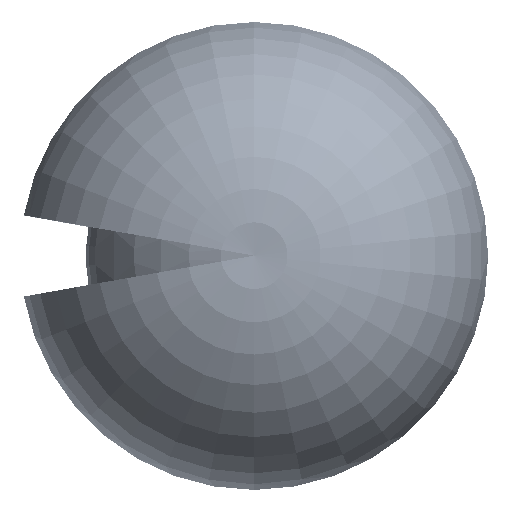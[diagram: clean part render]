
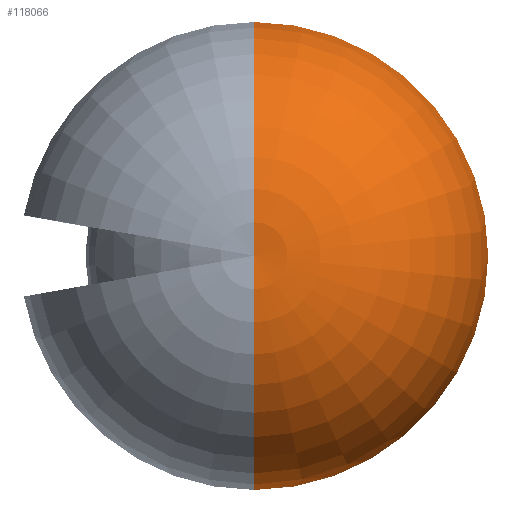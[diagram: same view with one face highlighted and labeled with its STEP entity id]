
A CAD part, top view. The second image highlights one B-rep face of the part: STEP entity #118066.
In plain terms, the highlighted toroidal (fillet/blend) face has major radius 320 mm and minor radius 2344.87 mm.
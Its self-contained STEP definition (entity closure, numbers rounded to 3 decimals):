
#2024 = CARTESIAN_POINT ( 'NONE',  ( 0., 2655.95, 984.369 ) ) ;
#18565 = ORIENTED_EDGE ( 'NONE', *, *, #205548, .F. ) ;
#35650 = DIRECTION ( 'NONE',  ( 0., 0., -1. ) ) ;
#38506 = AXIS2_PLACEMENT_3D ( 'NONE', #326166, #189157, #192695 ) ;
#44978 = EDGE_LOOP ( 'NONE', ( #181104, #284876, #18565 ) ) ;
#47679 = CIRCLE ( 'NONE', #104976, 2655.95 ) ;
#59914 = DIRECTION ( 'NONE',  ( 1., 0., 0. ) ) ;
#96157 = TOROIDAL_SURFACE ( 'NONE', #176822, 320., 2344.873 ) ;
#104976 = AXIS2_PLACEMENT_3D ( 'NONE', #307895, #35650, #252008 ) ;
#118066 = ADVANCED_FACE ( 'NONE', ( #209916 ), #96157, .T. ) ;
#124533 = CARTESIAN_POINT ( 'NONE',  ( 0., 0., 3102.936 ) ) ;
#131394 = CIRCLE ( 'NONE', #38506, 2344.873 ) ;
#133597 = AXIS2_PLACEMENT_3D ( 'NONE', #200492, #59914, #256387 ) ;
#146355 = VERTEX_POINT ( 'NONE', #2024 ) ;
#176822 = AXIS2_PLACEMENT_3D ( 'NONE', #182895, #206365, #229855 ) ;
#180596 = CARTESIAN_POINT ( 'NONE',  ( 0., -2655.95, 984.369 ) ) ;
#181104 = ORIENTED_EDGE ( 'NONE', *, *, #256884, .F. ) ;
#182895 = CARTESIAN_POINT ( 'NONE',  ( 0., 0., 780. ) ) ;
#189157 = DIRECTION ( 'NONE',  ( -1., 0., 0. ) ) ;
#192695 = DIRECTION ( 'NONE',  ( 0., 0., 1. ) ) ;
#200492 = CARTESIAN_POINT ( 'NONE',  ( 0., -320., 780. ) ) ;
#205548 = EDGE_CURVE ( 'NONE', #146355, #240679, #47679, .T. ) ;
#206365 = DIRECTION ( 'NONE',  ( 0., 0., -1. ) ) ;
#209916 = FACE_OUTER_BOUND ( 'NONE', #44978, .T. ) ;
#229855 = DIRECTION ( 'NONE',  ( 0., 1., 0. ) ) ;
#240679 = VERTEX_POINT ( 'NONE', #180596 ) ;
#249738 = EDGE_CURVE ( 'NONE', #323619, #240679, #335108, .T. ) ;
#252008 = DIRECTION ( 'NONE',  ( 0., 1., 0. ) ) ;
#256387 = DIRECTION ( 'NONE',  ( 0., 1., 0. ) ) ;
#256884 = EDGE_CURVE ( 'NONE', #323619, #146355, #131394, .T. ) ;
#284876 = ORIENTED_EDGE ( 'NONE', *, *, #249738, .T. ) ;
#307895 = CARTESIAN_POINT ( 'NONE',  ( 0., 0., 984.369 ) ) ;
#323619 = VERTEX_POINT ( 'NONE', #124533 ) ;
#326166 = CARTESIAN_POINT ( 'NONE',  ( 0., 320., 780. ) ) ;
#335108 = CIRCLE ( 'NONE', #133597, 2344.873 ) ;
